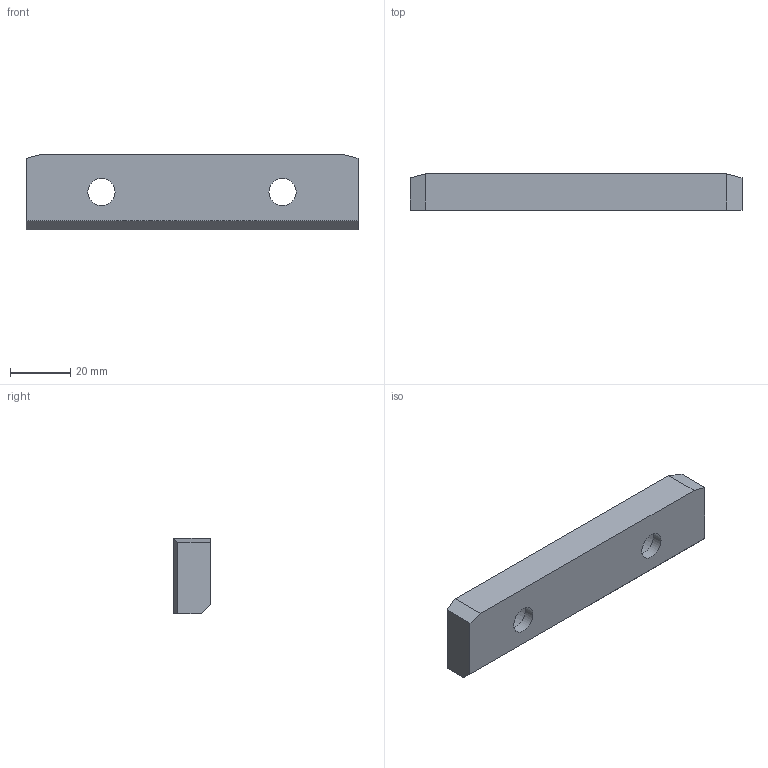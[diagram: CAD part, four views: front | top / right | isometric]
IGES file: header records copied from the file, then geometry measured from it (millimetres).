
Start section: Data from Parasolid IGES Translator 20.0.26, Copyright(c) 2006 Siemens P LM Software. All Rights Reserved.
Global section: file name: G224-12-012-110.igs; native system: By Siemens PLM Incorporated; preprocessor: XPlus GENERIC/IGES 20.0.26; author: Noname; organization: Noname; date: 20190709.084531; units: millimetre
Bounding box: 110 x 12 x 25 mm (x, y, z)
Surface area: 9172.5 mm2 (no closed solid volume)
Topology: 0 solids, 0 shells, 17 faces, 74 edges, 66 vertices
Faces by surface type: extrusion 13, revolution 4
